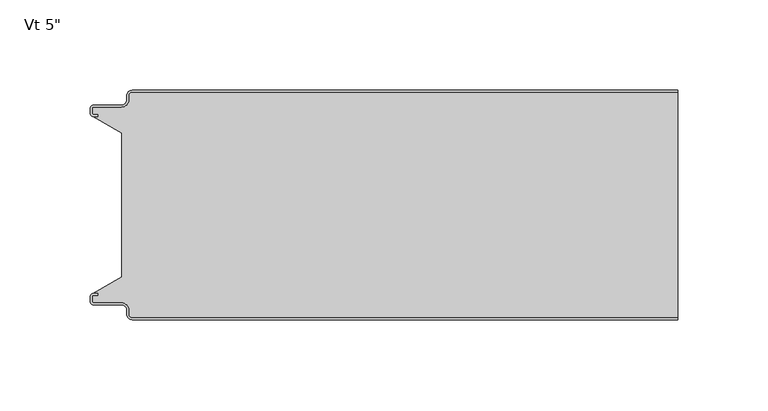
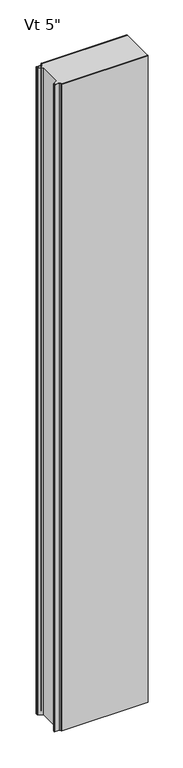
"""IFC4 building model written with IfcOpenShell, lengths in millimetres: plate geometry."""

import ifcopenshell
import ifcopenshell.guid

model = None  # the IFC model being written
_history = None  # IfcOwnerHistory: only IFC2X3 demands one
_inside = {}  # id of a spatial element -> (the spatial element, [elements in it])
_under = {}  # id of a project, library or spatial element -> (it, [spatial elements below it])
_declared = {}  # id of a project -> (the project, [libraries it declares])
_typed = {}  # id of a type object -> (the type object, [elements of that type])
_made_of = {}  # id of a material, layer set ... -> (it, [elements and type objects made of it])


def new_model(schema):
    """Start an empty IFC model of exactly this schema.

    Asked for "IFC4X3", IfcOpenShell would pick the latest addendum, in which some entities
    have other attributes; the version numbers below select the first issue.
    IFC2X3 requires an IfcOwnerHistory on every rooted entity: one is made here for all.
    """
    global model, _history
    if schema == "IFC4X3":
        model = ifcopenshell.file(schema_version=(4, 3, 0, 0))
    else:
        model = ifcopenshell.file(schema=schema)
    _inside.clear()
    _under.clear()
    _declared.clear()
    _typed.clear()
    _made_of.clear()
    _history = None
    if model.schema == "IFC2X3":
        org = make("IfcOrganization", Name="unknown")
        user = make(
            "IfcPersonAndOrganization",
            ThePerson=make("IfcPerson", FamilyName="unknown"),
            TheOrganization=org,
        )
        app = make(
            "IfcApplication",
            ApplicationDeveloper=org,
            Version="unknown",
            ApplicationFullName="unknown",
            ApplicationIdentifier="unknown",
        )
        _history = make(
            "IfcOwnerHistory",
            OwningUser=user,
            OwningApplication=app,
            ChangeAction="ADDED",
            CreationDate=0,
        )
    return model


def make(cls, **values):
    """One entity of the class cls with the attributes given. An attribute that is None is left unset."""
    return model.create_entity(
        cls, **{name: value for name, value in values.items() if value is not None}
    )


def rooted(cls, **values):
    """An entity with a GlobalId (a new one), such as an element, a storey or a relation."""
    return make(cls, GlobalId=ifcopenshell.guid.new(), OwnerHistory=_history, **values)


def si_unit(unit_type, name, prefix=None):
    """IfcSIUnit, for example si_unit("LENGTHUNIT", "METRE", prefix="MILLI")."""
    return make("IfcSIUnit", UnitType=unit_type, Prefix=prefix, Name=name)


def assignment(units):
    """IfcUnitAssignment: the units of a project."""
    return None if units is None else make("IfcUnitAssignment", Units=units)


def point(xyz):
    """IfcCartesianPoint."""
    return None if xyz is None else make("IfcCartesianPoint", Coordinates=xyz)


def direction(xyz):
    """IfcDirection."""
    return None if xyz is None else make("IfcDirection", DirectionRatios=xyz)


def frame(location, z_axis=None, x_axis=None):
    """IfcAxis2Placement3D, a coordinate frame: its origin and axes. An axis left out is left unset."""
    return make(
        "IfcAxis2Placement3D",
        Location=point(location),
        Axis=direction(z_axis),
        RefDirection=direction(x_axis),
    )


def origin():
    """The frame at (0, 0, 0) with its axes left unset."""
    return frame((0.0, 0.0, 0.0))


def place(relative_to, where):
    """IfcLocalPlacement: puts the frame where relative to a parent placement (None: the world)."""
    return make(
        "IfcLocalPlacement", PlacementRelTo=relative_to, RelativePlacement=where
    )


def context(
    kind, dimensions, precision=None, world=None, true_north=None, identifier=None
):
    """IfcGeometricRepresentationContext, for example the 3D "Model" context."""
    return make(
        "IfcGeometricRepresentationContext",
        ContextIdentifier=identifier,
        ContextType=kind,
        CoordinateSpaceDimension=dimensions,
        Precision=precision,
        WorldCoordinateSystem=world,
        TrueNorth=true_north,
    )


def project(units=None, contexts=None):
    """IfcProject with its units and contexts."""
    return rooted(
        "IfcProject",
        Name="project",
        RepresentationContexts=contexts,
        UnitsInContext=assignment(units),
    )


def spatial(cls, under=None, at=None, **own):
    """A site, building, storey or space (cls), placed at a placement, below another one or the project."""
    s = rooted(cls, ObjectPlacement=at, **own)
    if under is not None:
        _under.setdefault(under.id(), (under, []))[1].append(s)
    return s


def polyline(points):
    """IfcPolyline through the points."""
    return make("IfcPolyline", Points=[point(p) for p in points])


def circle_curve(where, radius):
    """IfcCircle in the frame where."""
    return make("IfcCircle", Position=where, Radius=radius)


def shape(context_of_items, identifier, shape_type, items):
    """IfcShapeRepresentation: the items that make up one representation, for example the "Body"."""
    return make(
        "IfcShapeRepresentation",
        ContextOfItems=context_of_items,
        RepresentationIdentifier=identifier,
        RepresentationType=shape_type,
        Items=items,
    )


def source(mapping_origin, context_of_items, identifier, shape_type, items):
    """IfcRepresentationMap: a shape defined once, which mapped items show again and again."""
    return make(
        "IfcRepresentationMap",
        MappingOrigin=mapping_origin,
        MappedRepresentation=shape(context_of_items, identifier, shape_type, items),
    )


def transform(
    local_origin,
    x_axis=None,
    y_axis=None,
    z_axis=None,
    scale=None,
    scale2=None,
    scale3=None,
    uniform=True,
):
    """IfcCartesianTransformationOperator3D, or its non-uniform kind. x_axis, y_axis, z_axis: its Axis1, 2, 3."""
    if uniform:
        return make(
            "IfcCartesianTransformationOperator3D",
            Axis1=direction(x_axis),
            Axis2=direction(y_axis),
            LocalOrigin=point(local_origin),
            Scale=scale,
            Axis3=direction(z_axis),
        )
    return make(
        "IfcCartesianTransformationOperator3DnonUniform",
        Axis1=direction(x_axis),
        Axis2=direction(y_axis),
        LocalOrigin=point(local_origin),
        Scale=scale,
        Axis3=direction(z_axis),
        Scale2=scale2,
        Scale3=scale3,
    )


def mapped(mapping_source, mapping_target):
    """IfcMappedItem: shows the shape of a source again, moved by a transform."""
    return make(
        "IfcMappedItem", MappingSource=mapping_source, MappingTarget=mapping_target
    )


def made_of(thing, what):
    """Note that an element or type object is made of a material, layer set ...; save() writes the relation."""
    if what is not None:
        _made_of.setdefault(what.id(), (what, []))[1].append(thing)
    return thing


def element(
    cls,
    number,
    at=None,
    inside=None,
    cuts=None,
    type_object=None,
    material=None,
    context=None,
    identifier="Body",
    shape_type=None,
    held_by="IfcProductDefinitionShape",
    body=None,
    shapes=None,
    **own,
):
    """One element of the class cls, such as IfcWall. Its Tag is "e" and its number.

    at: its placement. inside: the storey or other place that contains it. cuts: it is an
    opening in that element (IfcRelVoidsElement). A single representation is given by context,
    identifier, shape_type and body (its items); several are given by shapes. held_by: the class
    of the entity that holds the representations. save() writes the other relations.
    """
    e = rooted(cls, Tag="e%d" % number, ObjectPlacement=at, **own)
    if body is not None:
        shapes = [shape(context, identifier, shape_type, body)]
    if shapes is not None:
        e.Representation = make(held_by, Representations=shapes)
    if inside is not None:
        _inside.setdefault(inside.id(), (inside, []))[1].append(e)
    if cuts is not None:
        rooted(
            "IfcRelVoidsElement", RelatingBuildingElement=cuts, RelatedOpeningElement=e
        )
    if type_object is not None:
        _typed.setdefault(type_object.id(), (type_object, []))[1].append(e)
    return made_of(e, material)


def aggregate(whole, parts):
    """IfcRelAggregates: a whole, such as a stair, and the parts it consists of."""
    return rooted("IfcRelAggregates", RelatingObject=whole, RelatedObjects=parts)


def save(model, path):
    """Write the relations noted so far, then the file.

    IfcRelAggregates (storeys below a building ...), IfcRelContainedInSpatialStructure (elements
    in a storey), IfcRelDefinesByType, IfcRelAssociatesMaterial and IfcRelDeclares: one each for
    every whole, place, type object, material and project.
    """
    for whole, parts in _under.values():
        aggregate(whole, parts)
    for where, things in _inside.values():
        rooted(
            "IfcRelContainedInSpatialStructure",
            RelatedElements=things,
            RelatingStructure=where,
        )
    for kind, things in _typed.values():
        rooted("IfcRelDefinesByType", RelatedObjects=things, RelatingType=kind)
    for what, things in _made_of.values():
        rooted("IfcRelAssociatesMaterial", RelatedObjects=things, RelatingMaterial=what)
    for by, libraries in _declared.values():
        rooted("IfcRelDeclares", RelatingContext=by, RelatedDefinitions=libraries)
    model.write(path)


def plane_surface(at):
    """IfcPlane: the flat surface through the origin of the frame at, square to its z axis."""
    return make("IfcPlane", Position=at)


def cylinder_surface(at, radius):
    """IfcCylindricalSurface: all points at the distance radius from the z axis of the frame at."""
    return make("IfcCylindricalSurface", Position=at, Radius=radius)


def revolved_surface(curve, axis_point, axis_direction):
    """IfcSurfaceOfRevolution: the curve turned about the line through axis_point along axis_direction."""
    return make(
        "IfcSurfaceOfRevolution",
        SweptCurve=make("IfcArbitraryOpenProfileDef", ProfileType="CURVE", Curve=curve),
        AxisPosition=make("IfcAxis1Placement", Location=point(axis_point), Axis=direction(axis_direction)),
    )


def advanced_brep(points, edges, surfaces, faces):
    """IfcAdvancedBrep: a solid bounded by faces that lie on surfaces and meet in shared edges.

    An edge is (start, end): straight between two places in points (the first is 0);
    or (start, end, curve); or (start, end, curve, False) where it runs against its curve.
    A face is (place in surfaces, loops), or (place, loops, False) where it looks against
    its surface's normal. A loop lists edges by number (the first is 1), with a minus sign
    where the edge is run from its end to its start. The first loop is the outer one.
    """
    corners = [point(p) for p in points]
    vertices = [make("IfcVertexPoint", VertexGeometry=c) for c in corners]
    made = []
    for start, end, *more in edges:
        made.append(
            make(
                "IfcEdgeCurve",
                EdgeStart=vertices[start],
                EdgeEnd=vertices[end],
                EdgeGeometry=more[0] if more else make("IfcPolyline", Points=[corners[start], corners[end]]),
                SameSense=more[1] if len(more) > 1 else True,
            )
        )
    hull = []
    for where, loops, *sense in faces:
        bounds = []
        for j, loop in enumerate(loops):
            ring = [make("IfcOrientedEdge", EdgeElement=made[abs(k) - 1], Orientation=k > 0) for k in loop]
            bounds.append(
                make(
                    "IfcFaceOuterBound" if j == 0 else "IfcFaceBound",
                    Bound=make("IfcEdgeLoop", EdgeList=ring),
                    Orientation=True,
                )
            )
        hull.append(make("IfcAdvancedFace", Bounds=bounds, FaceSurface=surfaces[where], SameSense=sense[0] if sense else True))
    return make("IfcAdvancedBrep", Outer=make("IfcClosedShell", CfsFaces=hull))


def plate_3d7bb654(model_context):
    return source(origin(), model_context, "Body", "AdvancedBrep", [
        advanced_brep(
        [(-149.8873936, -2.9776189, 2400.0), (-147.9104835, -1.0007088, 2400.0), (153.7374998, -1.0007088, 2400.0), (153.7374998, 0.0, 2400.0), (-147.9102787, 0.0, 2400.0), (-150.8875472, -2.977286, 2400.0), (-150.8875472, -5.2691698, 2400.0), (-153.8648158, -8.2464384, 2400.0), (-169.4612418, -8.2464384, 2400.0), (-171.0491183, -9.8343149, 2400.0), (-171.0491183, -12.9058636, 2400.0), (-169.4612418, -14.4937401, 2400.0), (-167.1062063, -14.4937401, 2400.0), (-167.1062063, -13.4937365, 2400.0), (-169.4612373, -13.4937365, 2400.0), (-170.0491084, -12.9058654, 2400.0), (-170.0491084, -9.834334, 2400.0), (-169.4612512, -9.2464768, 2400.0), (-153.864739, -9.2464768, 2400.0), (-149.8873936, -5.2691315, 2400.0), (-149.8873936, -2.9776189, 0.0), (-149.8873936, -5.2691315, 0.0), (-153.864739, -9.2464768, 0.0), (-169.4612512, -9.2464768, 0.0), (-170.0491084, -9.834334, 0.0), (-170.0491084, -12.9058654, 0.0), (-169.4612373, -13.4937365, 0.0), (-167.1062063, -13.4937365, 0.0), (-167.1062063, -14.4937401, 0.0), (-169.4612418, -14.4937401, 0.0), (-171.0491183, -12.9058636, 0.0), (-171.0491183, -9.8343149, 0.0), (-169.4612418, -8.2464384, 0.0), (-153.8648158, -8.2464384, 0.0), (-150.8875472, -5.2691698, 0.0), (-150.8875472, -2.977286, 0.0), (-147.9102787, -1.75e-05, 0.0), (153.7374998, 0.0, 0.0), (153.7374998, -1.0007088, 0.0), (-147.9104835, -1.0007088, 0.0)],
        [
            (0, 1, circle_curve(frame((-147.9104835, -2.9776189, 2400.0), z_axis=(0.0, 0.0, -1.0), x_axis=(0.0, 1.0, 0.0)), 1.9769101)),
            (1, 2),
            (2, 3),
            (3, 4),
            (4, 5, circle_curve(frame((-147.9102787, -2.977286, 2400.0), z_axis=(0.0, 0.0, 1.0), x_axis=(0.0, 1.0, 0.0)), 2.9772685)),
            (5, 6),
            (6, 7, circle_curve(frame((-153.8648158, -5.2691698, 2400.0), z_axis=(0.0, 0.0, -1.0), x_axis=(0.0, 1.0, 0.0)), 2.9772685)),
            (7, 8),
            (8, 9, circle_curve(frame((-169.4612418, -9.8343149, 2400.0), z_axis=(0.0, 0.0, 1.0), x_axis=(0.0, 1.0, 0.0)), 1.5878765)),
            (9, 10),
            (10, 11, circle_curve(frame((-169.4612418, -12.9058636, 2400.0), z_axis=(0.0, 0.0, 1.0), x_axis=(0.0, 1.0, 0.0)), 1.5878765)),
            (11, 12),
            (12, 13),
            (13, 14),
            (14, 15, circle_curve(frame((-169.4612373, -12.9058654, 2400.0), z_axis=(0.0, 0.0, -1.0), x_axis=(0.0, 1.0, 0.0)), 0.5878711)),
            (15, 16),
            (16, 17, circle_curve(frame((-169.4612512, -9.834334, 2400.0), z_axis=(0.0, 0.0, -1.0), x_axis=(0.0, 1.0, 0.0)), 0.5878572)),
            (17, 18),
            (18, 19, circle_curve(frame((-153.864739, -5.2691315, 2400.0), z_axis=(0.0, 0.0, 1.0), x_axis=(0.0, 1.0, 0.0)), 3.9773454)),
            (19, 0),
            (20, 21),
            (21, 22, circle_curve(frame((-153.864739, -5.2691315, 0.0), z_axis=(0.0, 0.0, -1.0), x_axis=(0.0, 1.0, 0.0)), 3.9773454)),
            (22, 23),
            (23, 24, circle_curve(frame((-169.4612512, -9.834334, 0.0), z_axis=(0.0, 0.0, 1.0), x_axis=(0.0, 1.0, 0.0)), 0.5878572)),
            (24, 25),
            (25, 26, circle_curve(frame((-169.4612373, -12.9058654, 0.0), z_axis=(0.0, 0.0, 1.0), x_axis=(0.0, 1.0, 0.0)), 0.5878711)),
            (26, 27),
            (27, 28),
            (28, 29),
            (29, 30, circle_curve(frame((-169.4612418, -12.9058636, 0.0), z_axis=(0.0, 0.0, -1.0), x_axis=(0.0, 1.0, 0.0)), 1.5878765)),
            (30, 31),
            (31, 32, circle_curve(frame((-169.4612418, -9.8343149, 0.0), z_axis=(0.0, 0.0, -1.0), x_axis=(0.0, 1.0, 0.0)), 1.5878765)),
            (32, 33),
            (33, 34, circle_curve(frame((-153.8648158, -5.2691698, 0.0), z_axis=(0.0, 0.0, 1.0), x_axis=(0.0, 1.0, 0.0)), 2.9772685)),
            (34, 35),
            (35, 36, circle_curve(frame((-147.9102787, -2.977286, 0.0), z_axis=(0.0, 0.0, -1.0), x_axis=(0.0, 1.0, 0.0)), 2.9772685)),
            (36, 37),
            (37, 38),
            (38, 39),
            (39, 20, circle_curve(frame((-147.9104835, -2.9776189, 0.0), z_axis=(0.0, 0.0, 1.0), x_axis=(0.0, 1.0, 0.0)), 1.9769101)),
            (2, 38),
            (37, 3),
            (19, 21),
            (20, 0),
            (18, 22),
            (17, 23),
            (16, 24),
            (15, 25),
            (14, 26),
            (13, 27),
            (12, 28),
            (11, 29),
            (10, 30),
            (9, 31),
            (8, 32),
            (7, 33),
            (6, 34),
            (5, 35),
            (4, 36),
            (1, 39),
        ],
        [
            plane_surface(frame((422.5250002, 0.0, 2400.0), z_axis=(0.0, 0.0, 1.0), x_axis=(0.0, 1.0, 0.0))),
            plane_surface(frame((422.5250002, 0.0, 0.0), z_axis=(0.0, 0.0, -1.0), x_axis=(0.0, 1.0, 0.0))),
            plane_surface(frame((153.7374998, -137.0, 2400.0), z_axis=(1.0, 0.0, 0.0), x_axis=(0.0, 0.0, -1.0))),
            plane_surface(frame((-149.8873936, -2.9776189, 2400.0), z_axis=(1.0, 0.0, 0.0), x_axis=(0.0, 0.0, -1.0))),
            cylinder_surface(frame((-153.864739, -5.2691315, 2400.0), z_axis=(0.0, 0.0, 1.0), x_axis=(0.0, 1.0, 0.0)), 3.9773454),
            plane_surface(frame((-153.864739, -9.2464768, 2400.0), z_axis=(0.0, -1.0, 0.0), x_axis=(0.0, 0.0, -1.0))),
            revolved_surface(polyline([(-169.4612512, -9.2464768, 0.0), (-169.4612512, -9.2464768, 2400.0)]), (-169.4612512, -9.834334, 2400.0), (0.0, 0.0, -1.0)),
            plane_surface(frame((-170.0491084, -9.834334, 2400.0), z_axis=(1.0, 0.0, 0.0), x_axis=(0.0, 0.0, -1.0))),
            revolved_surface(polyline([(-169.4612373, -12.3179943, 0.0), (-169.4612373, -12.3179943, 2400.0)]), (-169.4612373, -12.9058654, 2400.0), (0.0, 0.0, -1.0)),
            plane_surface(frame((-169.4612373, -13.4937365, 2400.0), z_axis=(0.0, 1.0, 0.0), x_axis=(0.0, 0.0, -1.0))),
            plane_surface(frame((-167.1062063, -13.4937365, 2400.0), z_axis=(1.0, 0.0, 0.0), x_axis=(0.0, 0.0, -1.0))),
            plane_surface(frame((-167.1062063, -14.4937401, 2400.0), z_axis=(0.0, -1.0, 0.0), x_axis=(0.0, 0.0, -1.0))),
            cylinder_surface(frame((-169.4612418, -12.9058636, 2400.0), z_axis=(0.0, 0.0, 1.0), x_axis=(0.0, 1.0, 0.0)), 1.5878765),
            plane_surface(frame((-171.0491183, -12.9058636, 2400.0), z_axis=(-1.0, 0.0, 0.0), x_axis=(0.0, 0.0, -1.0))),
            cylinder_surface(frame((-169.4612418, -9.8343149, 2400.0), z_axis=(0.0, 0.0, 1.0), x_axis=(0.0, 1.0, 0.0)), 1.5878765),
            plane_surface(frame((-169.4612418, -8.2464384, 2400.0), z_axis=(0.0, 1.0, 0.0), x_axis=(0.0, 0.0, -1.0))),
            revolved_surface(polyline([(-153.8648158, -2.2919013, 0.0), (-153.8648158, -2.2919013, 2400.0)]), (-153.8648158, -5.2691698, 2400.0), (0.0, 0.0, -1.0)),
            plane_surface(frame((-150.8875472, -5.2691698, 2400.0), z_axis=(-1.0, 0.0, 0.0), x_axis=(0.0, 0.0, -1.0))),
            cylinder_surface(frame((-147.9102787, -2.977286, 2400.0), z_axis=(0.0, 0.0, 1.0), x_axis=(0.0, 1.0, 0.0)), 2.9772685),
            plane_surface(frame((-147.9102787, 0.0, 2400.0), z_axis=(0.0, 1.0, 0.0), x_axis=(0.0, 0.0, -1.0))),
            plane_surface(frame((997.0753372, -1.0007088, 2400.0), z_axis=(0.0, -1.0, 0.0), x_axis=(0.0, 0.0, -1.0))),
            revolved_surface(polyline([(-147.9104835, -1.0007088, 0.0), (-147.9104835, -1.0007088, 2400.0)]), (-147.9104835, -2.9776189, 2400.0), (0.0, 0.0, -1.0)),
        ],
        [
            (0, [[1, 2, 3, 4, 5, 6, 7, 8, 9, 10, 11, 12, 13, 14, 15, 16, 17, 18, 19, 20]]),
            (1, [[21, 22, 23, 24, 25, 26, 27, 28, 29, 30, 31, 32, 33, 34, 35, 36, 37, 38, 39, 40]]),
            (2, [[41, -38, 42, -3]]),
            (3, [[43, -21, 44, -20]]),
            (4, [[45, -22, -43, -19]]),
            (5, [[46, -23, -45, -18]]),
            (6, [[47, -24, -46, -17]]),
            (7, [[48, -25, -47, -16]]),
            (8, [[49, -26, -48, -15]]),
            (9, [[50, -27, -49, -14]]),
            (10, [[51, -28, -50, -13]]),
            (11, [[52, -29, -51, -12]]),
            (12, [[53, -30, -52, -11]]),
            (13, [[54, -31, -53, -10]]),
            (14, [[55, -32, -54, -9]]),
            (15, [[56, -33, -55, -8]]),
            (16, [[57, -34, -56, -7]]),
            (17, [[58, -35, -57, -6]]),
            (18, [[59, -36, -58, -5]]),
            (19, [[-4, -42, -37, -59]]),
            (20, [[-39, -41, -2, 60]]),
            (21, [[-44, -40, -60, -1]]),
        ],
    ),
        advanced_brep(
        [(-149.8873936, -124.0223811, 2400.0), (-149.8873936, -121.7308685, 2400.0), (-153.864739, -117.7535232, 2400.0), (-169.4612512, -117.7535232, 2400.0), (-170.0491084, -117.165666, 2400.0), (-170.0491084, -114.0941346, 2400.0), (-169.4612373, -113.5062635, 2400.0), (-167.1062063, -113.5062635, 2400.0), (-167.1062063, -112.5062599, 2400.0), (-169.4612418, -112.5062599, 2400.0), (-171.0491183, -114.0941364, 2400.0), (-171.0491183, -117.1656851, 2400.0), (-169.4612418, -118.7535616, 2400.0), (-153.8648158, -118.7535616, 2400.0), (-150.8875472, -121.7308302, 2400.0), (-150.8875472, -124.022714, 2400.0), (-147.9102787, -126.9999825, 2400.0), (153.7374998, -127.0, 2400.0), (153.7374998, -125.9992912, 2400.0), (-147.9104835, -125.9992912, 2400.0), (-149.8873936, -124.0223811, 0.0), (-147.9104835, -125.9992912, 0.0), (153.7374998, -125.9992912, 0.0), (153.7374998, -127.0, 0.0), (-147.9102787, -127.0, 0.0), (-150.8875472, -124.022714, 0.0), (-150.8875472, -121.7308302, 0.0), (-153.8648158, -118.7535616, 0.0), (-169.4612418, -118.7535616, 0.0), (-171.0491183, -117.1656851, 0.0), (-171.0491183, -114.0941364, 0.0), (-169.4612418, -112.5062599, 0.0), (-167.1062063, -112.5062599, 0.0), (-167.1062063, -113.5062635, 0.0), (-169.4612373, -113.5062635, 0.0), (-170.0491084, -114.0941346, 0.0), (-170.0491084, -117.165666, 0.0), (-169.4612512, -117.7535232, 0.0), (-153.864739, -117.7535232, 0.0), (-149.8873936, -121.7308685, 0.0)],
        [
            (0, 1),
            (1, 2, circle_curve(frame((-153.864739, -121.7308685, 2400.0), z_axis=(0.0, 0.0, 1.0), x_axis=(-1.0, 0.0, 0.0)), 3.9773454)),
            (2, 3),
            (3, 4, circle_curve(frame((-169.4612512, -117.165666, 2400.0), z_axis=(0.0, 0.0, -1.0), x_axis=(-1.0, 0.0, 0.0)), 0.5878572)),
            (4, 5),
            (5, 6, circle_curve(frame((-169.4612373, -114.0941346, 2400.0), z_axis=(0.0, 0.0, -1.0), x_axis=(-1.0, 0.0, 0.0)), 0.5878711)),
            (6, 7),
            (7, 8),
            (8, 9),
            (9, 10, circle_curve(frame((-169.4612418, -114.0941364, 2400.0), z_axis=(0.0, 0.0, 1.0), x_axis=(-1.0, 0.0, 0.0)), 1.5878765)),
            (10, 11),
            (11, 12, circle_curve(frame((-169.4612418, -117.1656851, 2400.0), z_axis=(0.0, 0.0, 1.0), x_axis=(-1.0, 0.0, 0.0)), 1.5878765)),
            (12, 13),
            (13, 14, circle_curve(frame((-153.8648158, -121.7308302, 2400.0), z_axis=(0.0, 0.0, -1.0), x_axis=(-1.0, 0.0, 0.0)), 2.9772685)),
            (14, 15),
            (15, 16, circle_curve(frame((-147.9102787, -124.022714, 2400.0), z_axis=(0.0, 0.0, 1.0), x_axis=(-1.0, 0.0, 0.0)), 2.9772685)),
            (16, 17),
            (17, 18),
            (18, 19),
            (19, 0, circle_curve(frame((-147.9104835, -124.0223811, 2400.0), z_axis=(0.0, 0.0, -1.0), x_axis=(-1.0, 0.0, 0.0)), 1.9769101)),
            (20, 21, circle_curve(frame((-147.9104835, -124.0223811, 0.0), z_axis=(0.0, 0.0, 1.0), x_axis=(-1.0, 0.0, 0.0)), 1.9769101)),
            (21, 22),
            (22, 23),
            (23, 24),
            (24, 25, circle_curve(frame((-147.9102787, -124.022714, 0.0), z_axis=(0.0, 0.0, -1.0), x_axis=(-1.0, 0.0, 0.0)), 2.9772685)),
            (25, 26),
            (26, 27, circle_curve(frame((-153.8648158, -121.7308302, 0.0), z_axis=(0.0, 0.0, 1.0), x_axis=(-1.0, 0.0, 0.0)), 2.9772685)),
            (27, 28),
            (28, 29, circle_curve(frame((-169.4612418, -117.1656851, 0.0), z_axis=(0.0, 0.0, -1.0), x_axis=(-1.0, 0.0, 0.0)), 1.5878765)),
            (29, 30),
            (30, 31, circle_curve(frame((-169.4612418, -114.0941364, 0.0), z_axis=(0.0, 0.0, -1.0), x_axis=(-1.0, 0.0, 0.0)), 1.5878765)),
            (31, 32),
            (32, 33),
            (33, 34),
            (34, 35, circle_curve(frame((-169.4612373, -114.0941346, 0.0), z_axis=(0.0, 0.0, 1.0), x_axis=(-1.0, 0.0, 0.0)), 0.5878711)),
            (35, 36),
            (36, 37, circle_curve(frame((-169.4612512, -117.165666, 0.0), z_axis=(0.0, 0.0, 1.0), x_axis=(-1.0, 0.0, 0.0)), 0.5878572)),
            (37, 38),
            (38, 39, circle_curve(frame((-153.864739, -121.7308685, 0.0), z_axis=(0.0, 0.0, -1.0), x_axis=(-1.0, 0.0, 0.0)), 3.9773454)),
            (39, 20),
            (17, 23),
            (22, 18),
            (16, 24),
            (21, 19),
            (20, 0),
            (39, 1),
            (38, 2),
            (37, 3),
            (4, 36),
            (35, 5),
            (34, 6),
            (33, 7),
            (32, 8),
            (31, 9),
            (30, 10),
            (29, 11),
            (28, 12),
            (27, 13),
            (26, 14),
            (25, 15),
        ],
        [
            plane_surface(frame((422.5250002, -127.0, 2400.0), z_axis=(0.0, 0.0, 1.0), x_axis=(0.0, -1.0, 0.0))),
            plane_surface(frame((422.5250002, -127.0, 0.0), z_axis=(0.0, 0.0, -1.0), x_axis=(0.0, -1.0, 0.0))),
            plane_surface(frame((153.7374998, -137.0, 2400.0), z_axis=(1.0, 0.0, 0.0), x_axis=(0.0, 0.0, -1.0))),
            plane_surface(frame((997.0725653, -127.0, 2400.0), z_axis=(0.0, -1.0, 0.0), x_axis=(0.0, 0.0, -1.0))),
            plane_surface(frame((-147.9104835, -125.9992912, 2400.0), z_axis=(0.0, 1.0, 0.0), x_axis=(0.0, 0.0, -1.0))),
            revolved_surface(polyline([(-149.8873936, -124.0223811, 0.0), (-149.8873936, -124.0223811, 2400.0)]), (-147.9104835, -124.0223811, 2400.0), (0.0, 0.0, -1.0)),
            plane_surface(frame((-149.8873936, -121.7308685, 2400.0), z_axis=(1.0, 0.0, 0.0), x_axis=(0.0, 0.0, -1.0))),
            cylinder_surface(frame((-153.864739, -121.7308685, 2400.0), z_axis=(0.0, 0.0, 1.0), x_axis=(-1.0, 0.0, 0.0)), 3.9773454),
            plane_surface(frame((-169.4612512, -117.7535232, 2400.0), z_axis=(0.0, 1.0, 0.0), x_axis=(0.0, 0.0, -1.0))),
            plane_surface(frame((-170.0491084, -114.0941346, 2400.0), z_axis=(1.0, 0.0, 0.0), x_axis=(0.0, 0.0, -1.0))),
            revolved_surface(polyline([(-170.0491084, -114.0941346, 0.0), (-170.0491084, -114.0941346, 2400.0)]), (-169.4612373, -114.0941346, 2400.0), (0.0, 0.0, -1.0)),
            plane_surface(frame((-167.1062063, -113.5062635, 2400.0), z_axis=(0.0, -1.0, 0.0), x_axis=(0.0, 0.0, -1.0))),
            plane_surface(frame((-167.1062063, -112.5062599, 2400.0), z_axis=(1.0, 0.0, 0.0), x_axis=(0.0, 0.0, -1.0))),
            plane_surface(frame((-169.4612418, -112.5062599, 2400.0), z_axis=(0.0, 1.0, 0.0), x_axis=(0.0, 0.0, -1.0))),
            cylinder_surface(frame((-169.4612418, -114.0941364, 2400.0), z_axis=(0.0, 0.0, 1.0), x_axis=(-1.0, 0.0, 0.0)), 1.5878765),
            plane_surface(frame((-171.0491183, -117.1656851, 2400.0), z_axis=(-1.0, 0.0, 0.0), x_axis=(0.0, 0.0, -1.0))),
            cylinder_surface(frame((-169.4612418, -117.1656851, 2400.0), z_axis=(0.0, 0.0, 1.0), x_axis=(-1.0, 0.0, 0.0)), 1.5878765),
            plane_surface(frame((-153.8648158, -118.7535616, 2400.0), z_axis=(0.0, -1.0, 0.0), x_axis=(0.0, 0.0, -1.0))),
            revolved_surface(polyline([(-156.8420843, -121.7308302, 0.0), (-156.8420843, -121.7308302, 2400.0)]), (-153.8648158, -121.7308302, 2400.0), (0.0, 0.0, -1.0)),
            plane_surface(frame((-150.8875472, -124.022714, 2400.0), z_axis=(-1.0, 0.0, 0.0), x_axis=(0.0, 0.0, -1.0))),
            cylinder_surface(frame((-147.9102787, -124.022714, 2400.0), z_axis=(0.0, 0.0, 1.0), x_axis=(-1.0, 0.0, 0.0)), 2.9772685),
            revolved_surface(polyline([(-170.0491084, -117.165666, 0.0), (-170.0491084, -117.165666, 2400.0)]), (-169.4612512, -117.165666, 2400.0), (0.0, 0.0, -1.0)),
        ],
        [
            (0, [[1, 2, 3, 4, 5, 6, 7, 8, 9, 10, 11, 12, 13, 14, 15, 16, 17, 18, 19, 20]]),
            (1, [[21, 22, 23, 24, 25, 26, 27, 28, 29, 30, 31, 32, 33, 34, 35, 36, 37, 38, 39, 40]]),
            (2, [[41, -23, 42, -18]]),
            (3, [[-24, -41, -17, 43]]),
            (4, [[-19, -42, -22, 44]]),
            (5, [[-44, -21, 45, -20]]),
            (6, [[-45, -40, 46, -1]]),
            (7, [[-46, -39, 47, -2]]),
            (8, [[-47, -38, 48, -3]]),
            (9, [[49, -36, 50, -5]]),
            (10, [[-50, -35, 51, -6]]),
            (11, [[-51, -34, 52, -7]]),
            (12, [[-52, -33, 53, -8]]),
            (13, [[-53, -32, 54, -9]]),
            (14, [[-54, -31, 55, -10]]),
            (15, [[-55, -30, 56, -11]]),
            (16, [[-56, -29, 57, -12]]),
            (17, [[-57, -28, 58, -13]]),
            (18, [[-58, -27, 59, -14]]),
            (19, [[-59, -26, 60, -15]]),
            (20, [[-60, -25, -43, -16]]),
            (21, [[-48, -37, -49, -4]]),
        ],
    ),
        advanced_brep(
        [(-149.88755, -124.0227194, 2400.0), (-147.910276, -125.9999935, 2400.0), (153.7374998, -126.0, 2400.0), (153.7374998, -1.0, 2400.0), (-147.910276, -1.0, 2400.0), (-149.88755, -2.9772806, 2400.0), (-149.88755, -5.2691705, 2400.0), (-153.8648171, -9.2464377, 2400.0), (-169.4612416, -9.2464377, 2400.0), (-170.0491185, -9.8343146, 2400.0), (-170.0491185, -12.9058635, 2400.0), (-169.4612418, -13.4937402, 2400.0), (-167.1062063, -13.4937402, 2400.0), (-167.1062063, -14.4937402, 2400.0), (-169.395785, -14.4937402, 2400.0), (-153.7374998, -23.7509135, 2400.0), (-153.7374998, -103.2490865, 2400.0), (-169.395785, -112.5062598, 2400.0), (-167.1062063, -112.5062598, 2400.0), (-167.1062063, -113.5062598, 2400.0), (-169.4612418, -113.5062598, 2400.0), (-170.0491185, -114.0941365, 2400.0), (-170.0491185, -117.1656854, 2400.0), (-169.4612416, -117.7535623, 2400.0), (-153.8648171, -117.7535623, 2400.0), (-149.88755, -121.7308295, 2400.0), (-149.88755, -124.0227194, 0.0), (-149.88755, -121.7308295, 0.0), (-153.8648171, -117.7535623, 0.0), (-169.4612416, -117.7535623, 0.0), (-170.0491185, -117.1656854, 0.0), (-170.0491185, -114.0941365, 0.0), (-169.4612418, -113.5062598, 0.0), (-167.1062063, -113.5062598, 0.0), (-167.1062063, -112.5062598, 0.0), (-169.395785, -112.5062598, 0.0), (-153.7374998, -103.2490865, 0.0), (-153.7374998, -23.7509179, 0.0), (-169.395785, -14.4937402, 0.0), (-167.1062063, -14.4937402, 0.0), (-167.1062063, -13.4937402, 0.0), (-169.4612418, -13.4937402, 0.0), (-170.0491185, -12.9058635, 0.0), (-170.0491185, -9.8343146, 0.0), (-169.4612416, -9.2464377, 0.0), (-153.8648171, -9.2464377, 0.0), (-149.88755, -5.2691705, 0.0), (-149.88755, -2.9772806, 0.0), (-147.910276, -1.0000065, 0.0), (153.7374998, -1.0, 0.0), (153.7374998, -126.0, 0.0), (-147.910276, -126.0, 0.0)],
        [
            (0, 1, circle_curve(frame((-147.910276, -124.0227194, 2400.0), z_axis=(0.0, 0.0, 1.0), x_axis=(-1.0, 0.0, 0.0)), 1.977274)),
            (1, 2),
            (2, 3),
            (3, 4),
            (4, 5, circle_curve(frame((-147.910276, -2.9772806, 2400.0), z_axis=(0.0, 0.0, 1.0), x_axis=(0.0, 1.0, 0.0)), 1.977274)),
            (5, 6),
            (6, 7, circle_curve(frame((-153.8648171, -5.2691705, 2400.0), z_axis=(0.0, 0.0, -1.0), x_axis=(0.0, 1.0, 0.0)), 3.9772671)),
            (7, 8),
            (8, 9, circle_curve(frame((-169.4612416, -9.8343146, 2400.0), z_axis=(0.0, 0.0, 1.0), x_axis=(0.0, 1.0, 0.0)), 0.5878769)),
            (9, 10),
            (10, 11, circle_curve(frame((-169.4612418, -12.9058635, 2400.0), z_axis=(0.0, 0.0, 1.0), x_axis=(0.0, 1.0, 0.0)), 0.5878766)),
            (11, 12),
            (12, 13),
            (13, 14),
            (14, 15),
            (15, 16),
            (16, 17),
            (17, 18),
            (18, 19),
            (19, 20),
            (20, 21, circle_curve(frame((-169.4612418, -114.0941365, 2400.0), z_axis=(0.0, 0.0, 1.0), x_axis=(-1.0, 0.0, 0.0)), 0.5878766)),
            (21, 22),
            (22, 23, circle_curve(frame((-169.4612416, -117.1656854, 2400.0), z_axis=(0.0, 0.0, 1.0), x_axis=(-1.0, 0.0, 0.0)), 0.5878769)),
            (23, 24),
            (24, 25, circle_curve(frame((-153.8648171, -121.7308295, 2400.0), z_axis=(0.0, 0.0, -1.0), x_axis=(-1.0, 0.0, 0.0)), 3.9772671)),
            (25, 0),
            (26, 27),
            (27, 28, circle_curve(frame((-153.8648171, -121.7308295, 0.0), z_axis=(0.0, 0.0, 1.0), x_axis=(-1.0, 0.0, 0.0)), 3.9772671)),
            (28, 29),
            (29, 30, circle_curve(frame((-169.4612416, -117.1656854, 0.0), z_axis=(0.0, 0.0, -1.0), x_axis=(-1.0, 0.0, 0.0)), 0.5878769)),
            (30, 31),
            (31, 32, circle_curve(frame((-169.4612418, -114.0941365, 0.0), z_axis=(0.0, 0.0, -1.0), x_axis=(-1.0, 0.0, 0.0)), 0.5878766)),
            (32, 33),
            (33, 34),
            (34, 35),
            (35, 36),
            (36, 37),
            (37, 38),
            (38, 39),
            (39, 40),
            (40, 41),
            (41, 42, circle_curve(frame((-169.4612418, -12.9058635, 0.0), z_axis=(0.0, 0.0, -1.0), x_axis=(0.0, 1.0, 0.0)), 0.5878766)),
            (42, 43),
            (43, 44, circle_curve(frame((-169.4612416, -9.8343146, 0.0), z_axis=(0.0, 0.0, -1.0), x_axis=(0.0, 1.0, 0.0)), 0.5878769)),
            (44, 45),
            (45, 46, circle_curve(frame((-153.8648171, -5.2691705, 0.0), z_axis=(0.0, 0.0, 1.0), x_axis=(0.0, 1.0, 0.0)), 3.9772671)),
            (46, 47),
            (47, 48, circle_curve(frame((-147.910276, -2.9772806, 0.0), z_axis=(0.0, 0.0, -1.0), x_axis=(0.0, 1.0, 0.0)), 1.977274)),
            (48, 49),
            (49, 50),
            (50, 51),
            (51, 26, circle_curve(frame((-147.910276, -124.0227194, 0.0), z_axis=(0.0, 0.0, -1.0), x_axis=(-1.0, 0.0, 0.0)), 1.977274)),
            (15, 37),
            (36, 16),
            (2, 50),
            (49, 3),
            (25, 27),
            (26, 0),
            (24, 28),
            (23, 29),
            (22, 30),
            (21, 31),
            (20, 32),
            (19, 33),
            (18, 34),
            (17, 35),
            (1, 51),
            (4, 48),
            (47, 5),
            (14, 38),
            (13, 39),
            (12, 40),
            (11, 41),
            (10, 42),
            (9, 43),
            (8, 44),
            (7, 45),
            (6, 46),
        ],
        [
            plane_surface(frame((422.5250002, -126.0, 2400.0), z_axis=(0.0, 0.0, 1.0), x_axis=(0.0, -1.0, 0.0))),
            plane_surface(frame((422.5250002, -126.0, 0.0), z_axis=(0.0, 0.0, -1.0), x_axis=(0.0, -1.0, 0.0))),
            plane_surface(frame((-153.7374998, -103.2490865, 2400.0), z_axis=(-1.0, 0.0, 0.0), x_axis=(0.0, 0.0, -1.0))),
            plane_surface(frame((153.7374998, -137.0, 2400.0), z_axis=(1.0, 0.0, 0.0), x_axis=(0.0, 0.0, -1.0))),
            plane_surface(frame((-149.88755, -124.0227194, 2400.0), z_axis=(-1.0, 0.0, 0.0), x_axis=(0.0, 0.0, -1.0))),
            revolved_surface(polyline([(-157.84208420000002, -121.7308295, 0.0), (-157.84208420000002, -121.7308295, 2400.0)]), (-153.8648171, -121.7308295, 2400.0), (0.0, 0.0, -1.0)),
            plane_surface(frame((-153.8648171, -117.7535623, 2400.0), z_axis=(0.0, -1.0, 0.0), x_axis=(0.0, 0.0, -1.0))),
            cylinder_surface(frame((-169.4612416, -117.1656854, 2400.0), z_axis=(0.0, 0.0, 1.0), x_axis=(-1.0, 0.0, 0.0)), 0.5878769),
            plane_surface(frame((-170.0491185, -117.1656854, 2400.0), z_axis=(-1.0, 0.0, 0.0), x_axis=(0.0, 0.0, -1.0))),
            cylinder_surface(frame((-169.4612418, -114.0941365, 2400.0), z_axis=(0.0, 0.0, 1.0), x_axis=(-1.0, 0.0, 0.0)), 0.5878766),
            plane_surface(frame((-169.4612418, -113.5062598, 2400.0), z_axis=(0.0, 1.0, 0.0), x_axis=(0.0, 0.0, -1.0))),
            plane_surface(frame((-167.1062063, -113.5062598, 2400.0), z_axis=(-1.0, 0.0, 0.0), x_axis=(0.0, 0.0, -1.0))),
            plane_surface(frame((-167.1062063, -112.5062598, 2400.0), z_axis=(0.0, -1.0, 0.0), x_axis=(0.0, 0.0, -1.0))),
            plane_surface(frame((-169.395785, -112.5062598, 2400.0), z_axis=(-0.5089147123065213, 0.860816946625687, 0.0), x_axis=(0.0, 0.0, -1.0))),
            plane_surface(frame((997.0725653, -126.0, 2400.0), z_axis=(0.0, -1.0, 0.0), x_axis=(0.0, 0.0, -1.0))),
            cylinder_surface(frame((-147.910276, -124.0227194, 2400.0), z_axis=(0.0, 0.0, 1.0), x_axis=(-1.0, 0.0, 0.0)), 1.977274),
            cylinder_surface(frame((-147.910276, -2.9772806, 2400.0), z_axis=(0.0, 0.0, 1.0), x_axis=(0.0, 1.0, 0.0)), 1.977274),
            plane_surface(frame((-147.910276, -1.0, 2400.0), z_axis=(0.0, 1.0, 0.0), x_axis=(0.0, 0.0, -1.0))),
            plane_surface(frame((-153.7374998, -23.7509135, 2400.0), z_axis=(-0.5089147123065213, -0.860816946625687, 0.0), x_axis=(0.0, 0.0, -1.0))),
            plane_surface(frame((-169.395785, -14.4937402, 2400.0), z_axis=(0.0, 1.0, 0.0), x_axis=(0.0, 0.0, -1.0))),
            plane_surface(frame((-167.1062063, -14.4937402, 2400.0), z_axis=(-1.0, 0.0, 0.0), x_axis=(0.0, 0.0, -1.0))),
            plane_surface(frame((-167.1062063, -13.4937402, 2400.0), z_axis=(0.0, -1.0, 0.0), x_axis=(0.0, 0.0, -1.0))),
            cylinder_surface(frame((-169.4612418, -12.9058635, 2400.0), z_axis=(0.0, 0.0, 1.0), x_axis=(0.0, 1.0, 0.0)), 0.5878766),
            plane_surface(frame((-170.0491185, -12.9058635, 2400.0), z_axis=(-1.0, 0.0, 0.0), x_axis=(0.0, 0.0, -1.0))),
            cylinder_surface(frame((-169.4612416, -9.8343146, 2400.0), z_axis=(0.0, 0.0, 1.0), x_axis=(0.0, 1.0, 0.0)), 0.5878769),
            plane_surface(frame((-169.4612416, -9.2464377, 2400.0), z_axis=(0.0, 1.0, 0.0), x_axis=(0.0, 0.0, -1.0))),
            revolved_surface(polyline([(-153.8648171, -1.2919034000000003, 0.0), (-153.8648171, -1.2919034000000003, 2400.0)]), (-153.8648171, -5.2691705, 2400.0), (0.0, 0.0, -1.0)),
            plane_surface(frame((-149.88755, -5.2691705, 2400.0), z_axis=(-1.0, 0.0, 0.0), x_axis=(0.0, 0.0, -1.0))),
        ],
        [
            (0, [[1, 2, 3, 4, 5, 6, 7, 8, 9, 10, 11, 12, 13, 14, 15, 16, 17, 18, 19, 20, 21, 22, 23, 24, 25, 26]]),
            (1, [[27, 28, 29, 30, 31, 32, 33, 34, 35, 36, 37, 38, 39, 40, 41, 42, 43, 44, 45, 46, 47, 48, 49, 50, 51, 52]]),
            (2, [[53, -37, 54, -16]]),
            (3, [[55, -50, 56, -3]]),
            (4, [[57, -27, 58, -26]]),
            (5, [[59, -28, -57, -25]]),
            (6, [[60, -29, -59, -24]]),
            (7, [[61, -30, -60, -23]]),
            (8, [[62, -31, -61, -22]]),
            (9, [[63, -32, -62, -21]]),
            (10, [[64, -33, -63, -20]]),
            (11, [[65, -34, -64, -19]]),
            (12, [[66, -35, -65, -18]]),
            (13, [[-54, -36, -66, -17]]),
            (14, [[-51, -55, -2, 67]]),
            (15, [[-58, -52, -67, -1]]),
            (16, [[68, -48, 69, -5]]),
            (17, [[-4, -56, -49, -68]]),
            (18, [[70, -38, -53, -15]]),
            (19, [[71, -39, -70, -14]]),
            (20, [[72, -40, -71, -13]]),
            (21, [[73, -41, -72, -12]]),
            (22, [[74, -42, -73, -11]]),
            (23, [[75, -43, -74, -10]]),
            (24, [[76, -44, -75, -9]]),
            (25, [[77, -45, -76, -8]]),
            (26, [[78, -46, -77, -7]]),
            (27, [[-69, -47, -78, -6]]),
        ],
    ),
    ])


if __name__ == "__main__":
    model = new_model("IFC4")
    model_context = context("Model", 3, world=origin())
    ifc_project = project(units=[si_unit("LENGTHUNIT", "METRE", prefix="MILLI")], contexts=[model_context])
    site = spatial("IfcSite", under=ifc_project)
    building = spatial("IfcBuilding", under=site)
    placement = place(None, origin())
    plate_shape = plate_3d7bb654(model_context)
    element("IfcPlate", 1, ObjectType="KIP-SLI-FLI-R19-CP-Vt-FL_FL : Vt 5\"", at=placement, inside=building, context=model_context, shape_type="MappedRepresentation", body=[
        mapped(plate_shape, transform((0.0, 0.0, 0.0), x_axis=(1.0, 0.0, 0.0), y_axis=(0.0, 1.0, 0.0), z_axis=(0.0, 0.0, 1.0))),
    ])
    save(model, "model.ifc")
